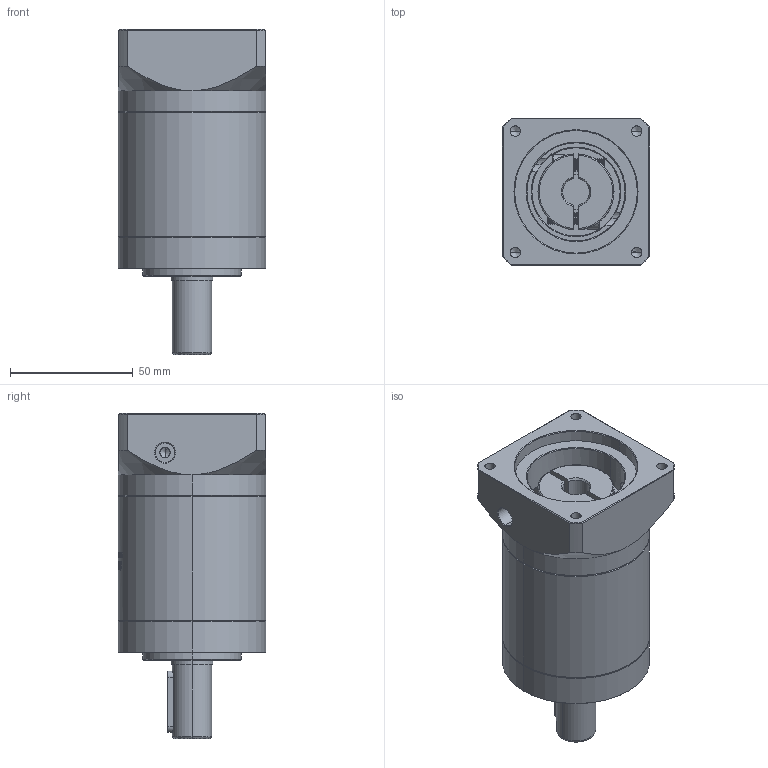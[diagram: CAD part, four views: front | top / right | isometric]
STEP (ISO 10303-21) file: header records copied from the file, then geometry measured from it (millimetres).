
FILE_DESCRIPTION (( 'STEP AP214' ), '1' );
FILE_NAME ('ZE60-D16-L2-11-50-70-M5.STEP', '2022-04-17T15:19:41', ( '' ), ( 'Microsoft' ), 'SwSTEP 2.0', 'SolidWorks 2016', '' );
FILE_SCHEMA (( 'AUTOMOTIVE_DESIGN' ));
Length unit declared in the file: millimetre
Products named in the file (1): ZE60-D16-L2-11-50-70-M5
Bounding box: 60 x 60 x 132.5 mm (x, y, z)
Volume: 264095.9 mm3; surface area: 45997.1 mm2
Topology: 6 solids, 6 shells, 1598 faces, 4327 edges, 2801 vertices
Faces by surface type: plane 724, cylinder 335, bspline 299, cone 222, torus 18
Entity records: 90501 total; most frequent: CARTESIAN_POINT 36419, ORIENTED_EDGE 8610, DIRECTION 6297, EDGE_CURVE 4305, VERTEX_POINT 2801, LINE 2203, VECTOR 2203, AXIS2_PLACEMENT_3D 2047
